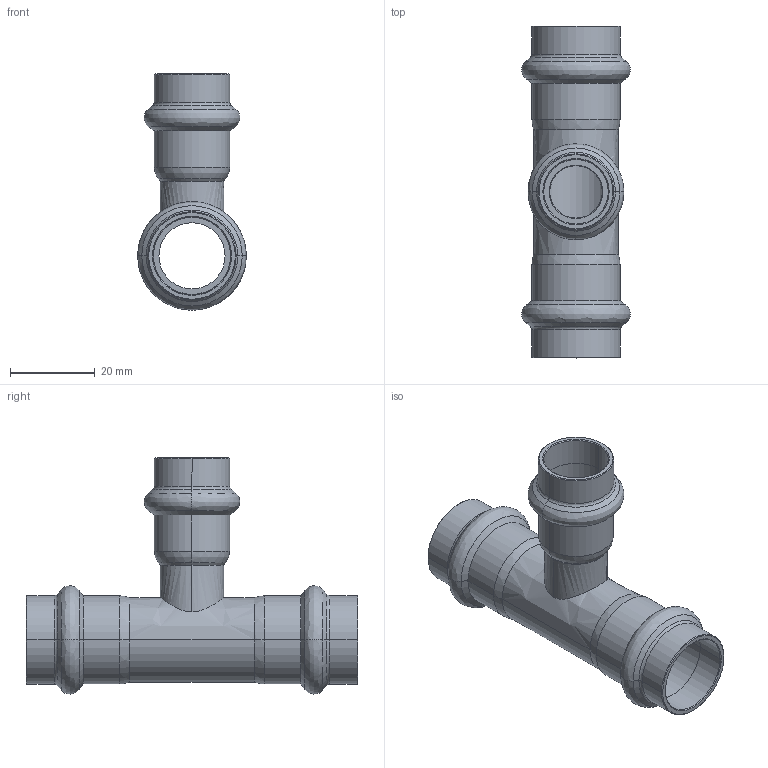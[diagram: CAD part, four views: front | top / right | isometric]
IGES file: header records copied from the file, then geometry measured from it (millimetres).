
Start section: Elysium IGES Interface
Global section: file name: C:\Users\Wallenburg\Desktop\3d modellen sudo\S-Pr VP\SP6130RV\6130RVW181518.igs; native system: CoCreate Modeling 17.00A  17-Jun-2010; preprocessor: CoCreate IGES_3D V2.2; author: Unknown; organization: Unknown; date: 20130117.131441; units: millimetre
Bounding box: 25.7 x 78.51 x 55.9 mm (x, y, z)
Volume: 10436.9 mm3; surface area: 13797.6 mm2
Topology: 1 solids, 1 shells, 124 faces, 252 edges, 138 vertices
Faces by surface type: bspline 124
